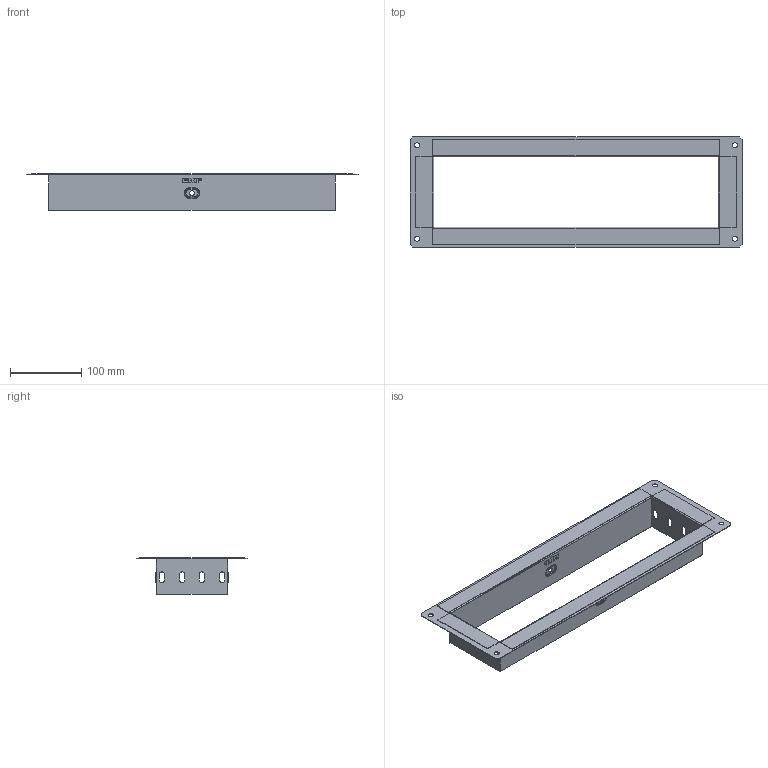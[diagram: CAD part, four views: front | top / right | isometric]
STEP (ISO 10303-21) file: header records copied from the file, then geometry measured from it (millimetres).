
FILE_DESCRIPTION (( 'STEP AP203' ), '1' );
FILE_NAME ('f100400_捘.STEP', '2020-01-23T12:30:29', ( '' ), ( '' ), 'SwSTEP 2.0', 'SolidWorks 2016', '' );
FILE_SCHEMA (( 'CONFIG_CONTROL_DESIGN' ));
Length unit declared in the file: millimetre
Products named in the file (9): f100300_3; f100400_捘; f100400_1; f50400_2
Assembly tree (5 placements, depth 2):
  f100400_捘
    f100400_1
    f50400_2  x2
    f100300_3  x2
  f100400_1
  f50400_2
  f50400_2
  f100300_3
Bounding box: 465 x 155 x 51.5 mm (x, y, z)
Volume: 84170.7 mm3; surface area: 214641.6 mm2
Topology: 5 solids, 5 shells, 326 faces, 852 edges, 552 vertices
Faces by surface type: plane 220, cylinder 72, bspline 18, torus 16
Entity records: 6612 total; most frequent: CARTESIAN_POINT 1418, ORIENTED_EDGE 912, DIRECTION 878, EDGE_CURVE 456, VECTOR 346, LINE 346, VERTEX_POINT 296, AXIS2_PLACEMENT_3D 266
